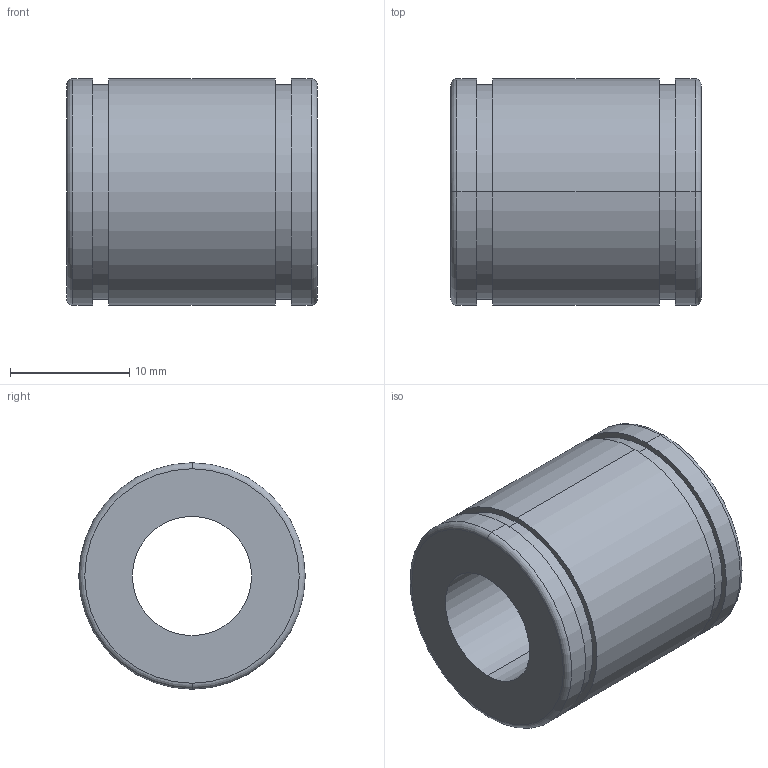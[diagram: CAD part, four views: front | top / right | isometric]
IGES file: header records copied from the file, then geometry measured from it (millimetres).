
Start section: 3D InterOp IGES (Version 21 0 1), Spatial Corp. Copyright (c) 1999-2007.
Global section: file name: N-10VS.igs; native system: Spatial Corp.; preprocessor: 3D InterOp GENERIC/IGES 3.0; author: Noname; organization: Noname; date: 20220311.154128; units: millimetre
Bounding box: 21 x 19 x 19 mm (x, y, z)
Surface area: 2405.1 mm2 (no closed solid volume)
Topology: 0 solids, 0 shells, 22 faces, 88 edges, 88 vertices
Faces by surface type: revolution 16, extrusion 6
